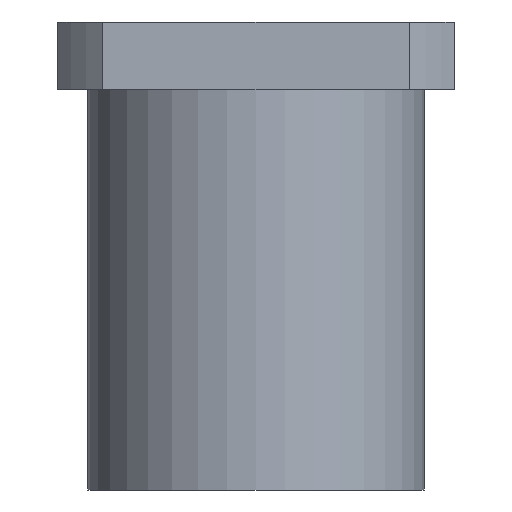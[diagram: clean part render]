
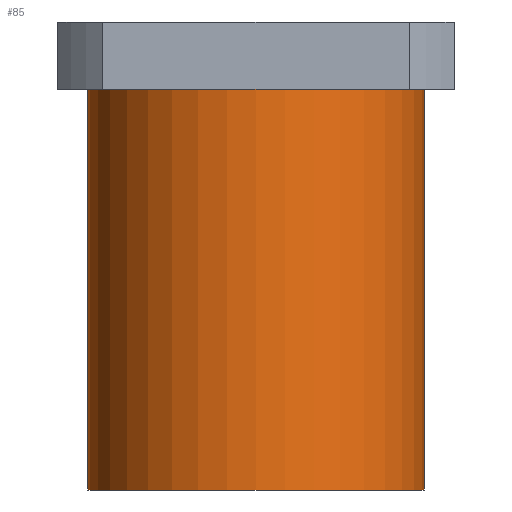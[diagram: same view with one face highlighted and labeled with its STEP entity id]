
A CAD part, front view. The second image highlights one B-rep face of the part: STEP entity #85.
In plain terms, the highlighted cylindrical face has radius 45 mm (diameter 90 mm), a partial arc.
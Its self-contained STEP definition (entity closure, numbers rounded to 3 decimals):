
#44=CARTESIAN_POINT('',(0.0,0.0,0.0));
#45=DIRECTION('',(0.0,0.0,1.0));
#46=DIRECTION('',(-1.0,0.0,0.0));
#47=AXIS2_PLACEMENT_3D('',#44,#45,#46);
#48=CYLINDRICAL_SURFACE('',#47,45.0);
#49=CARTESIAN_POINT('',(-45.0,0.,0.0));
#50=VERTEX_POINT('',#49);
#51=CARTESIAN_POINT('',(-45.0,0.,107.));
#52=VERTEX_POINT('',#51);
#53=CARTESIAN_POINT('',(-45.0,0.,0.0));
#54=DIRECTION('',(0.0,0.0,1.0));
#55=VECTOR('',#54,107.);
#56=LINE('',#53,#55);
#57=EDGE_CURVE('',#50,#52,#56,.T.);
#58=ORIENTED_EDGE('',*,*,#57,.F.);
#59=CARTESIAN_POINT('',(45.0,0.,0.0));
#60=VERTEX_POINT('',#59);
#61=CARTESIAN_POINT('',(0.0,0.0,0.0));
#62=DIRECTION('',(0.0,0.0,-1.0));
#63=DIRECTION('',(-1.0,0.0,0.0));
#64=AXIS2_PLACEMENT_3D('',#61,#62,#63);
#65=CIRCLE('',#64,45.0);
#66=EDGE_CURVE('',#60,#50,#65,.T.);
#67=ORIENTED_EDGE('',*,*,#66,.F.);
#68=CARTESIAN_POINT('',(45.0,0.,107.0));
#69=VERTEX_POINT('',#68);
#70=CARTESIAN_POINT('',(45.0,0.,107.0));
#71=DIRECTION('',(0.0,0.0,-1.0));
#72=VECTOR('',#71,107.0);
#73=LINE('',#70,#72);
#74=EDGE_CURVE('',#69,#60,#73,.T.);
#75=ORIENTED_EDGE('',*,*,#74,.F.);
#76=CARTESIAN_POINT('',(0.0,0.0,107.));
#77=DIRECTION('',(0.0,0.0,-1.0));
#78=DIRECTION('',(-1.0,0.0,0.0));
#79=AXIS2_PLACEMENT_3D('',#76,#77,#78);
#80=CIRCLE('',#79,45.0);
#81=EDGE_CURVE('',#69,#52,#80,.T.);
#82=ORIENTED_EDGE('',*,*,#81,.T.);
#83=EDGE_LOOP('',(#58,#67,#75,#82));
#84=FACE_OUTER_BOUND('',#83,.T.);
#85=ADVANCED_FACE('',(#84),#48,.T.);
